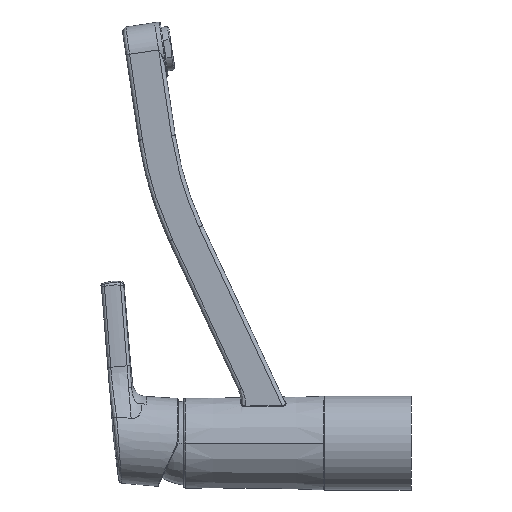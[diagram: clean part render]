
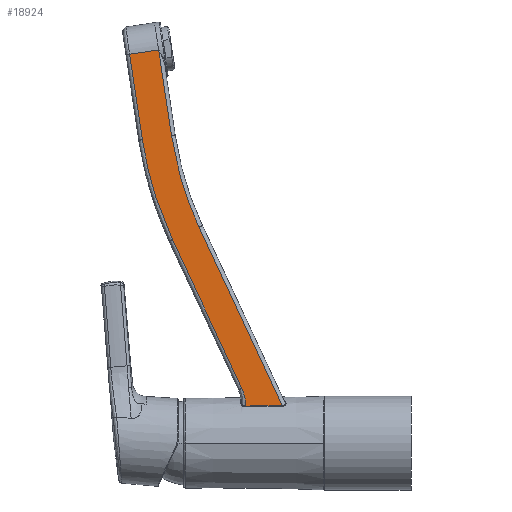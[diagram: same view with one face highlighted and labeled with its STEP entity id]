
A CAD part, left-side view. The second image highlights one B-rep face of the part: STEP entity #18924.
In plain terms, the highlighted planar face has unit normal (-1, 0, 0).
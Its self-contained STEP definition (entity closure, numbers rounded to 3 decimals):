
#727 = LINE ( 'NONE', #3786, #10149 ) ;
#881 = LINE ( 'NONE', #19107, #8633 ) ;
#1250 = DIRECTION ( 'NONE',  ( 0., -0.989, 0.148 ) ) ;
#1821 = ORIENTED_EDGE ( 'NONE', *, *, #4824, .F. ) ;
#1884 = ORIENTED_EDGE ( 'NONE', *, *, #19673, .F. ) ;
#2347 = VERTEX_POINT ( 'NONE', #19817 ) ;
#2568 = CARTESIAN_POINT ( 'NONE',  ( -15., 111.857, 117.529 ) ) ;
#2755 = CARTESIAN_POINT ( 'NONE',  ( -15., 126.899, 167.471 ) ) ;
#3128 = CARTESIAN_POINT ( 'NONE',  ( -15., 134.418, 128.052 ) ) ;
#3250 = DIRECTION ( 'NONE',  ( 0., -0.148, -0.989 ) ) ;
#3689 = CARTESIAN_POINT ( 'NONE',  ( -15., 111.857, 117.529 ) ) ;
#3786 = CARTESIAN_POINT ( 'NONE',  ( -15., 111.857, 117.529 ) ) ;
#4424 = EDGE_CURVE ( 'NONE', #12667, #21256, #22559, .T. ) ;
#4425 = CARTESIAN_POINT ( 'NONE',  ( -15., 87.193, 26.777 ) ) ;
#4698 = ORIENTED_EDGE ( 'NONE', *, *, #15570, .F. ) ;
#4824 = EDGE_CURVE ( 'NONE', #22917, #8803, #727, .T. ) ;
#5014 = CARTESIAN_POINT ( 'NONE',  ( -15., 142.734, 165.179 ) ) ;
#5940 = ORIENTED_EDGE ( 'NONE', *, *, #6538, .F. ) ;
#6182 = EDGE_CURVE ( 'NONE', #19275, #17832, #15399, .T. ) ;
#6196 = CARTESIAN_POINT ( 'NONE',  ( -15., 86.544, 20.181 ) ) ;
#6538 = EDGE_CURVE ( 'NONE', #21256, #2347, #15354, .T. ) ;
#6555 = ORIENTED_EDGE ( 'NONE', *, *, #6182, .F. ) ;
#7611 = VECTOR ( 'NONE', #15192, 1000. ) ;
#7804 = CARTESIAN_POINT ( 'NONE',  ( -15., -53.091, 194.445 ) ) ;
#7972 =( BOUNDED_CURVE ( )  B_SPLINE_CURVE ( 3, ( #15518, #3128, #19076, #8497 ),
 .UNSPECIFIED., .F., .F. ) 
 B_SPLINE_CURVE_WITH_KNOTS ( ( 4, 4 ),
 ( 0., 1. ),
 .UNSPECIFIED. ) 
 CURVE ( )  GEOMETRIC_REPRESENTATION_ITEM ( )  RATIONAL_B_SPLINE_CURVE ( ( 1., 0.993, 0.993, 1. ) ) 
 REPRESENTATION_ITEM ( '' )  );
#8052 = CARTESIAN_POINT ( 'NONE',  ( -15., 86.544, 20.181 ) ) ;
#8079 = DIRECTION ( 'NONE',  ( 1., 0., 0. ) ) ;
#8082 = CARTESIAN_POINT ( 'NONE',  ( -15., 88.602, 29.8 ) ) ;
#8439 = VERTEX_POINT ( 'NONE', #2755 ) ;
#8497 = CARTESIAN_POINT ( 'NONE',  ( -15., 142.734, 165.179 ) ) ;
#8568 = CARTESIAN_POINT ( 'NONE',  ( -15., 149.681, 211.663 ) ) ;
#8633 = VECTOR ( 'NONE', #3250, 1000. ) ;
#8771 = DIRECTION ( 'NONE',  ( 0., -0.423, -0.906 ) ) ;
#8803 = VERTEX_POINT ( 'NONE', #16354 ) ;
#8956 = CARTESIAN_POINT ( 'NONE',  ( -15., 126.899, 167.471 ) ) ;
#9403 = ORIENTED_EDGE ( 'NONE', *, *, #4424, .F. ) ;
#10140 = CARTESIAN_POINT ( 'NONE',  ( -15., 88.602, 29.8 ) ) ;
#10149 = VECTOR ( 'NONE', #8771, 1000. ) ;
#10462 = AXIS2_PLACEMENT_3D ( 'NONE', #7804, #8079, #20456 ) ;
#10659 = DIRECTION ( 'NONE',  ( 0., 1., -0.016 ) ) ;
#10712 = ORIENTED_EDGE ( 'NONE', *, *, #13571, .F. ) ;
#12667 = VERTEX_POINT ( 'NONE', #8052 ) ;
#12936 = ORIENTED_EDGE ( 'NONE', *, *, #16877, .F. ) ;
#13571 = EDGE_CURVE ( 'NONE', #8803, #12667, #17835, .T. ) ;
#14123 = CARTESIAN_POINT ( 'NONE',  ( -15., 86.544, 20.181 ) ) ;
#14146 = FACE_OUTER_BOUND ( 'NONE', #22049, .T. ) ;
#14275 = CARTESIAN_POINT ( 'NONE',  ( -15., 119.255, 133.395 ) ) ;
#14542 = VERTEX_POINT ( 'NONE', #5014 ) ;
#15192 = DIRECTION ( 'NONE',  ( 0., 0.148, 0.989 ) ) ;
#15354 = LINE ( 'NONE', #10140, #22129 ) ;
#15360 =( BOUNDED_CURVE ( )  B_SPLINE_CURVE ( 3, ( #8956, #19537, #14275, #3689 ),
 .UNSPECIFIED., .F., .T. ) 
 B_SPLINE_CURVE_WITH_KNOTS ( ( 4, 4 ),
 ( 0., 1. ),
 .UNSPECIFIED. ) 
 CURVE ( )  GEOMETRIC_REPRESENTATION_ITEM ( )  RATIONAL_B_SPLINE_CURVE ( ( 1., 0.993, 0.993, 1. ) ) 
 REPRESENTATION_ITEM ( '' )  );
#15399 = LINE ( 'NONE', #18879, #18991 ) ;
#15518 = CARTESIAN_POINT ( 'NONE',  ( -15., 126.358, 110.767 ) ) ;
#15570 = EDGE_CURVE ( 'NONE', #2347, #14542, #7972, .T. ) ;
#16354 = CARTESIAN_POINT ( 'NONE',  ( -15., 66.614, 20.506 ) ) ;
#16877 = EDGE_CURVE ( 'NONE', #17832, #8439, #881, .T. ) ;
#17832 = VERTEX_POINT ( 'NONE', #19820 ) ;
#17835 = LINE ( 'NONE', #14123, #22869 ) ;
#18566 = CARTESIAN_POINT ( 'NONE',  ( -15., 88.602, 29.8 ) ) ;
#18671 = PLANE ( 'NONE',  #10462 ) ;
#18673 = CARTESIAN_POINT ( 'NONE',  ( -15., 142.734, 165.179 ) ) ;
#18773 = DIRECTION ( 'NONE',  ( 0., 0.423, 0.906 ) ) ;
#18879 = CARTESIAN_POINT ( 'NONE',  ( -15., 149.681, 211.663 ) ) ;
#18924 = ADVANCED_FACE ( 'NONE', ( #14146 ), #18671, .F. ) ;
#18991 = VECTOR ( 'NONE', #1250, 1000. ) ;
#19076 = CARTESIAN_POINT ( 'NONE',  ( -15., 139.915, 146.316 ) ) ;
#19107 = CARTESIAN_POINT ( 'NONE',  ( -15., 133.875, 214.025 ) ) ;
#19275 = VERTEX_POINT ( 'NONE', #8568 ) ;
#19537 = CARTESIAN_POINT ( 'NONE',  ( -15., 124.304, 150.158 ) ) ;
#19673 = EDGE_CURVE ( 'NONE', #8439, #22917, #15360, .T. ) ;
#19817 = CARTESIAN_POINT ( 'NONE',  ( -15., 126.358, 110.767 ) ) ;
#19820 = CARTESIAN_POINT ( 'NONE',  ( -14.999, 133.875, 214.025 ) ) ;
#20074 = LINE ( 'NONE', #18673, #7611 ) ;
#20456 = DIRECTION ( 'NONE',  ( 0., 0., -1. ) ) ;
#21256 = VERTEX_POINT ( 'NONE', #8082 ) ;
#21355 = EDGE_CURVE ( 'NONE', #14542, #19275, #20074, .T. ) ;
#22049 = EDGE_LOOP ( 'NONE', ( #1884, #12936, #6555, #22265, #4698, #5940, #9403, #10712, #1821 ) ) ;
#22060 = CARTESIAN_POINT ( 'NONE',  ( -15., 86.495, 23.516 ) ) ;
#22129 = VECTOR ( 'NONE', #18773, 1000. ) ;
#22265 = ORIENTED_EDGE ( 'NONE', *, *, #21355, .F. ) ;
#22559 =( BOUNDED_CURVE ( )  B_SPLINE_CURVE ( 3, ( #6196, #22060, #4425, #18566 ),
 .UNSPECIFIED., .F., .T. ) 
 B_SPLINE_CURVE_WITH_KNOTS ( ( 4, 4 ),
 ( 0., 1. ),
 .UNSPECIFIED. ) 
 CURVE ( )  GEOMETRIC_REPRESENTATION_ITEM ( )  RATIONAL_B_SPLINE_CURVE ( ( 1., 0.983, 0.983, 1. ) ) 
 REPRESENTATION_ITEM ( '' )  );
#22869 = VECTOR ( 'NONE', #10659, 1000. ) ;
#22917 = VERTEX_POINT ( 'NONE', #2568 ) ;
